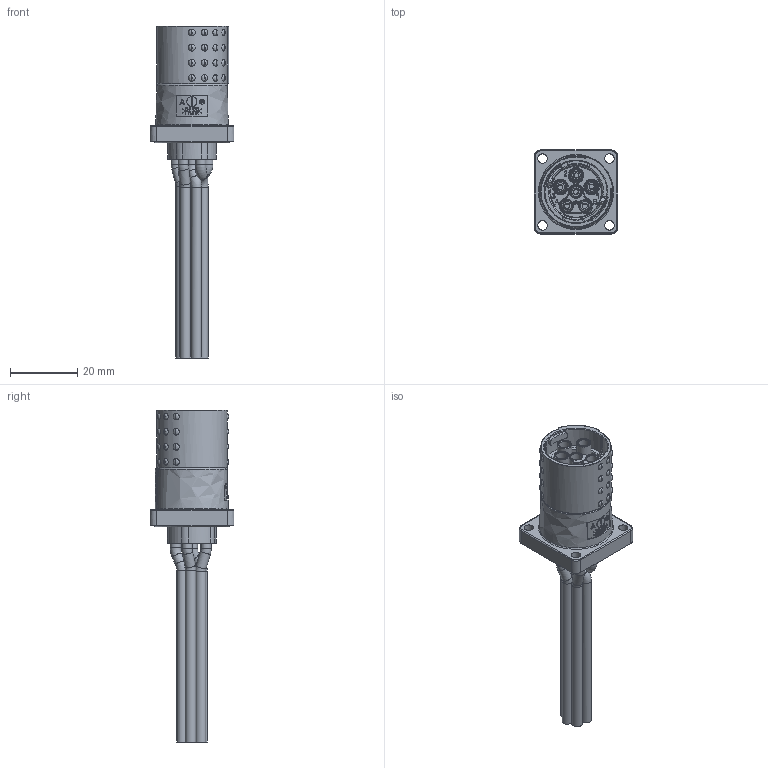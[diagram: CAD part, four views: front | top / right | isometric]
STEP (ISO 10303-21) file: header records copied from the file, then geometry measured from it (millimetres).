
FILE_DESCRIPTION (( 'STEP AP203' ), '1' );
FILE_NAME ('X-TEC_15K_ANBAU-BU_STEP.STEP', '2023-09-25T07:07:11', ( '' ), ( '' ), 'SwSTEP 2.0', 'SolidWorks 2021', '' );
FILE_SCHEMA (( 'CONFIG_CONTROL_DESIGN' ));
Length unit declared in the file: millimetre
Products named in the file (1): X-TEC_15K_ANBAU-BU_STEP
Bounding box: 25 x 25 x 98.81 mm (x, y, z)
Volume: 13429.5 mm3; surface area: 17966.9 mm2
Topology: 15 solids, 15 shells, 1870 faces, 4196 edges, 2798 vertices
Faces by surface type: plane 927, cylinder 612, bspline 280, cone 33, torus 18
Full cylindrical faces by diameter (mm): 0.2 x330, 0.8 x6, 1.5 x1, 1.6 x12, 2.25 x6, 2.5 x12, 2.6 x6, 2.8 x4, 3.1 x17, 3.12 x6, 3.3 x6, 3.5 x12, 3.6 x6, 4 x6, 4.3 x3, 15.595 x1, 16.8 x1, 16.9 x1, 18.304 x1, 18.4 x1, 20.5 x1, 23.5 x1
Entity records: 72923 total; most frequent: CARTESIAN_POINT 36478, ORIENTED_EDGE 6982, DIRECTION 6634, EDGE_CURVE 3491, EDGE_LOOP 2880, AXIS2_PLACEMENT_3D 2724, VERTEX_POINT 2617, FACE_OUTER_BOUND 2340
